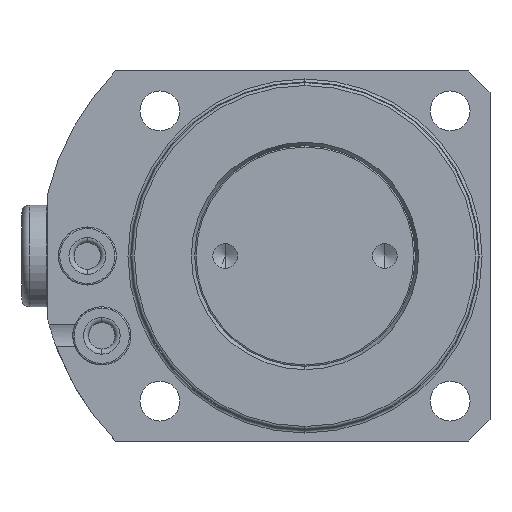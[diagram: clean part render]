
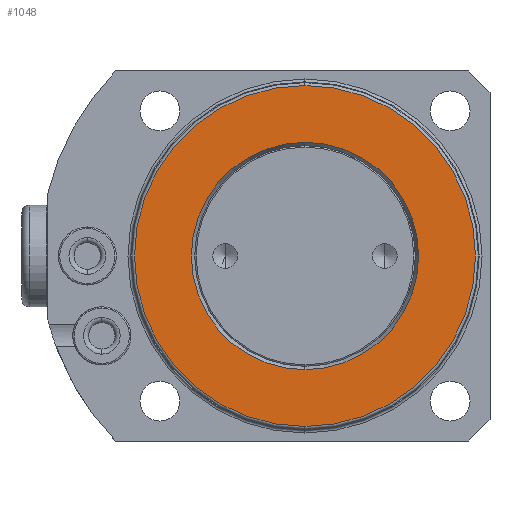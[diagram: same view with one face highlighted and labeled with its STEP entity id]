
A CAD part, front view. The second image highlights one B-rep face of the part: STEP entity #1048.
In plain terms, the highlighted planar face has unit normal (0, -1, 0).
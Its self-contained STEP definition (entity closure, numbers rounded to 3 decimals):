
#304=PLANE('',#4148);
#364=FACE_BOUND('',#1548,.T.);
#365=FACE_BOUND('',#1549,.T.);
#1048=ADVANCED_FACE('',(#364,#365),#304,.F.);
#1548=EDGE_LOOP('',(#2444,#2445));
#1549=EDGE_LOOP('',(#2446,#2447));
#2444=ORIENTED_EDGE('',*,*,#3240,.F.);
#2445=ORIENTED_EDGE('',*,*,#3368,.F.);
#2446=ORIENTED_EDGE('',*,*,#3245,.T.);
#2447=ORIENTED_EDGE('',*,*,#3367,.T.);
#2822=VERTEX_POINT('',#6419);
#2823=VERTEX_POINT('',#6420);
#2826=VERTEX_POINT('',#6428);
#2827=VERTEX_POINT('',#6430);
#3240=EDGE_CURVE('',#2822,#2823,#3588,.T.);
#3245=EDGE_CURVE('',#2827,#2826,#3592,.T.);
#3367=EDGE_CURVE('',#2826,#2827,#3664,.T.);
#3368=EDGE_CURVE('',#2823,#2822,#3665,.T.);
#3588=CIRCLE('',#4027,23.5);
#3592=CIRCLE('',#4032,15.662);
#3664=CIRCLE('',#4145,15.662);
#3665=CIRCLE('',#4147,23.5);
#4027=AXIS2_PLACEMENT_3D('',#6418,#5019,#5020);
#4032=AXIS2_PLACEMENT_3D('',#6429,#5030,#5031);
#4145=AXIS2_PLACEMENT_3D('',#6783,#5289,#5290);
#4147=AXIS2_PLACEMENT_3D('',#6785,#5293,#5294);
#4148=AXIS2_PLACEMENT_3D('',#6786,#5295,#5296);
#5019=DIRECTION('',(0.,1.,0.));
#5020=DIRECTION('',(0.,0.,1.));
#5030=DIRECTION('',(0.,1.,0.));
#5031=DIRECTION('',(0.,0.,1.));
#5289=DIRECTION('',(0.,1.,0.));
#5290=DIRECTION('',(0.,0.,1.));
#5293=DIRECTION('',(0.,1.,0.));
#5294=DIRECTION('',(0.,0.,1.));
#5295=DIRECTION('',(0.,1.,0.));
#5296=DIRECTION('',(0.,0.,1.));
#6418=CARTESIAN_POINT('',(0.,0.255,0.));
#6419=CARTESIAN_POINT('',(0.,0.255,23.5));
#6420=CARTESIAN_POINT('',(0.,0.255,-23.5));
#6428=CARTESIAN_POINT('',(0.,0.255,15.662));
#6429=CARTESIAN_POINT('',(0.,0.255,0.));
#6430=CARTESIAN_POINT('',(0.,0.255,-15.662));
#6783=CARTESIAN_POINT('',(0.,0.255,0.));
#6785=CARTESIAN_POINT('',(0.,0.255,0.));
#6786=CARTESIAN_POINT('',(23.5,0.255,0.));
